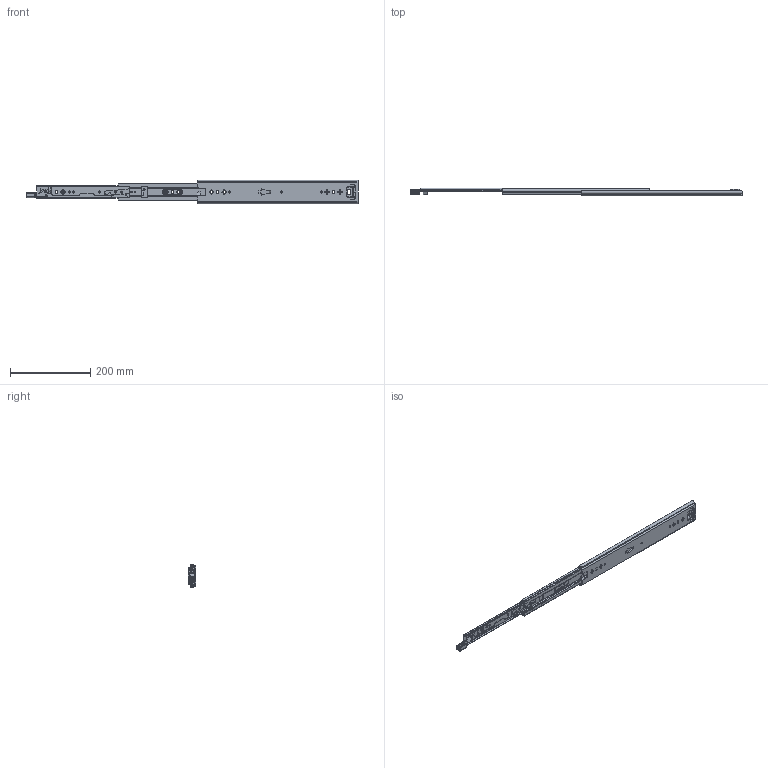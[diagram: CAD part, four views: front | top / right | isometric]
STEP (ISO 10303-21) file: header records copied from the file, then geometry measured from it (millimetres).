
FILE_DESCRIPTION((''),'2;1');
FILE_NAME('KP-57-01ZUZHUANGTU-16_ASM','2023-03-30T',('jishu015'),(''),'PRO/ENGINEER BY PARAMETRIC TECHNOLOGY CORPORATION, 2010280','PRO/ENGINEER BY PARAMETRIC TECHNOLOGY CORPORATION, 2010280','');
FILE_SCHEMA(('CONFIG_CONTROL_DESIGN'));
Length unit declared in the file: millimetre
Products named in the file (22): KP-57-01WEIKE-20__; 1057WEIJIAO__________________; WAIKE_________________ASM; KP-57-01ZHONGGUI-26_____; ZHONGGUIPEIJIAN-20__; ZHONGGUISUOKOU-18_; KP-57-01ZHONGGUI-26______ASM; 1057XIAOZHUJIA11; 1057-5-6GANZHU1; 1057XIAOZHUJIA-14GE26______ASM; KP-57-01NEIGUI-22___; PJ-57-08________________; DIAOPIAN-11________________; 50XINSUOKOU-1________________; TANHUANG________________; 1053-3SBANJI122______________; JIAO11______________; KP-57-01NEIGUI-22____ASM; 1053ZHUTIAO-275_____; 53-5-6GANZHU1__; 1053ZHUTIAO-175MM111__ASM; KP-57-01ZUZHUANGTU-16_ASM
Assembly tree (50 placements, depth 3):
  KP-57-01ZUZHUANGTU-16_ASM
    WAIKE_________________ASM
      KP-57-01WEIKE-20__
      1057WEIJIAO__________________
    KP-57-01ZHONGGUI-26______ASM
      KP-57-01ZHONGGUI-26_____
      ZHONGGUIPEIJIAN-20__
      ZHONGGUISUOKOU-18_
    1057XIAOZHUJIA-14GE26______ASM
      1057XIAOZHUJIA11
      1057-5-6GANZHU1  x24
    KP-57-01NEIGUI-22____ASM
      KP-57-01NEIGUI-22___
      PJ-57-08________________
      DIAOPIAN-11________________
      50XINSUOKOU-1________________
      TANHUANG________________
      1053-3SBANJI122______________
      JIAO11______________
    1053ZHUTIAO-175MM111__ASM  x2
      1053ZHUTIAO-275_____
      53-5-6GANZHU1__
Bounding box: 826.92 x 19 x 57.67 mm (x, y, z)
Volume: 174235.2 mm3; surface area: 187937.5 mm2
Topology: 53 solids, 53 shells, 1608 faces, 4552 edges, 2861 vertices
Faces by surface type: plane 689, cylinder 666, sphere 83, bspline 78, cone 44, torus 25, extrusion 23
Entity records: 53962 total; most frequent: CARTESIAN_POINT 14192, ORIENTED_EDGE 8396, DIRECTION 8155, EDGE_CURVE 4198, AXIS2_PLACEMENT_3D 2815, VERTEX_POINT 2705, VECTOR 2525, LINE 2502
